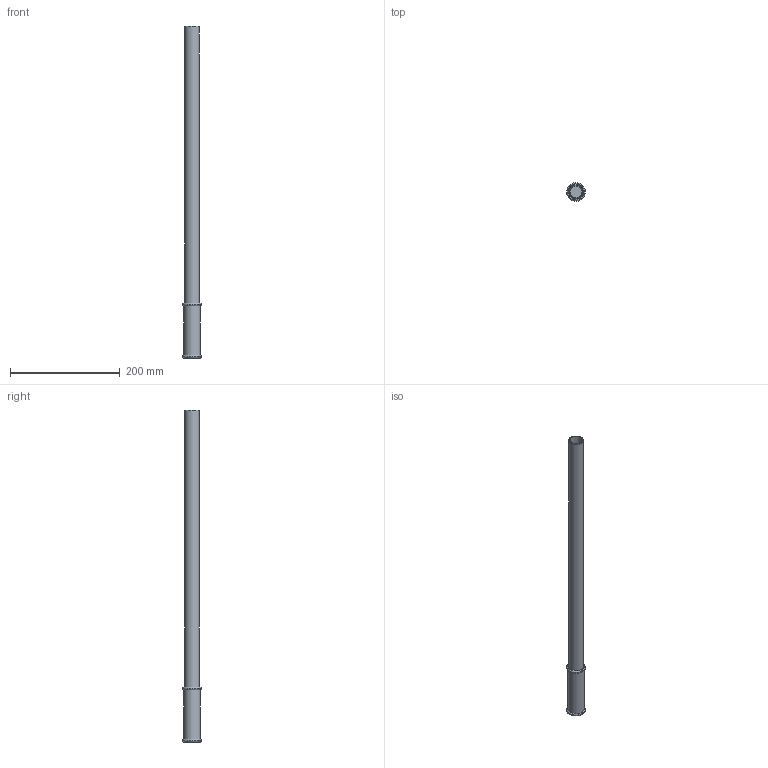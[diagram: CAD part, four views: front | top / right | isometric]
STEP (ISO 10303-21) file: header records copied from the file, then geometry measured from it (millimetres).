
FILE_DESCRIPTION(/* description */ ('Unknown'),/* implementation_level */ '2;1');
FILE_NAME(/* name */ 'LV27X600',/* time_stamp */ '2024-11-27T16:35:10+01:00',/* author */ ('Unknown'),/* organization */ ('Unknown'),/* preprocessor_version */ 'ST-DEVELOPER v19.4',/* originating_system */ 'Solid Edge',/* authorisation */ 'Unknown');
FILE_SCHEMA (('AUTOMOTIVE_DESIGN {1 0 10303 214 3 1 1}'));
Length unit declared in the file: millimetre
Products named in the file (1): LV27X600
Bounding box: 33.97 x 33.97 x 605 mm (x, y, z)
Volume: 133309.4 mm3; surface area: 95648.4 mm2
Topology: 1 solids, 1 shells, 15 faces, 33 edges, 20 vertices
Faces by surface type: cylinder 6, plane 4, torus 4, cone 1
Full cylindrical faces by diameter (mm): 5 x1, 22 x1, 27 x1, 30 x1, 34 x2
Entity records: 352 total; most frequent: CARTESIAN_POINT 66, DIRECTION 58, ORIENTED_EDGE 30, EDGE_LOOP 30, FACE_BOUND 30, AXIS2_PLACEMENT_3D 29, EDGE_CURVE 15, VERTEX_POINT 15
